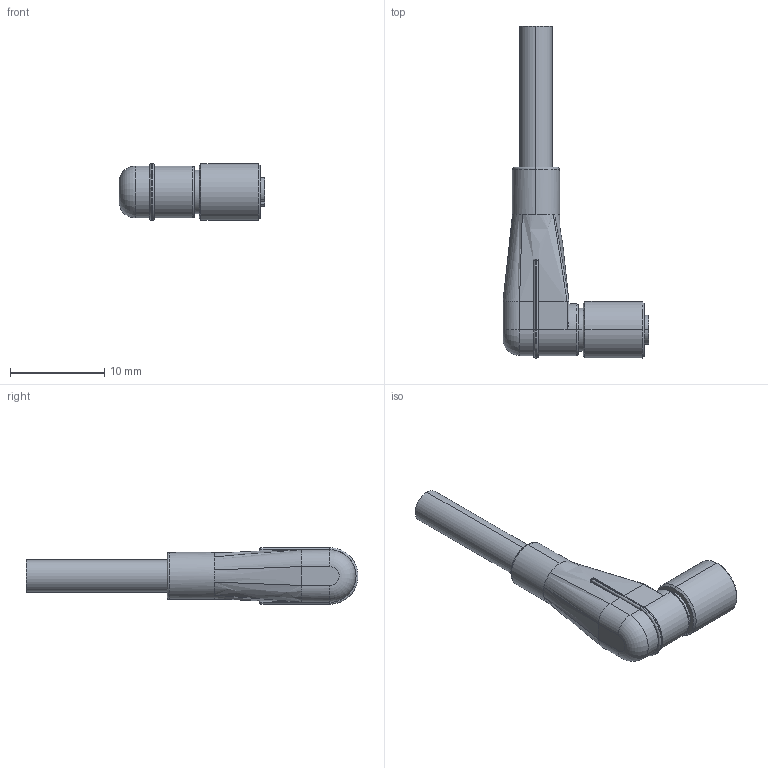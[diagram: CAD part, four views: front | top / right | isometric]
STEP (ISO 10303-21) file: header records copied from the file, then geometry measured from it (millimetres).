
FILE_DESCRIPTION (( 'STEP AP214' ), '1' );
FILE_NAME ('CAD (step) M5-3-W-2m.STEP', '2022-11-17T14:28:55', ( '' ), ( '' ), 'SwSTEP 2.0', 'SolidWorks 2019', '' );
FILE_SCHEMA (( 'AUTOMOTIVE_DESIGN' ));
Length unit declared in the file: millimetre
Products named in the file (3): 79-3110-52-04_2; CAD (step) M5-3-W-2m; 79-3110-52-04
Assembly tree (2 placements, depth 2):
  CAD (step) M5-3-W-2m
    79-3110-52-04
    79-3110-52-04_2
Bounding box: 15.5 x 35.25 x 6 mm (x, y, z)
Volume: 855.1 mm3; surface area: 993.3 mm2
Topology: 2 solids, 2 shells, 105 faces, 237 edges, 140 vertices
Faces by surface type: cylinder 42, plane 26, bspline 22, cone 14, torus 1
Entity records: 5492 total; most frequent: CARTESIAN_POINT 2097, ORIENTED_EDGE 466, DIRECTION 396, EDGE_CURVE 233, AXIS2_PLACEMENT_3D 149, VERTEX_POINT 140, EDGE_LOOP 115, UNCERTAINTY_MEASURE_WITH_UNIT 112
